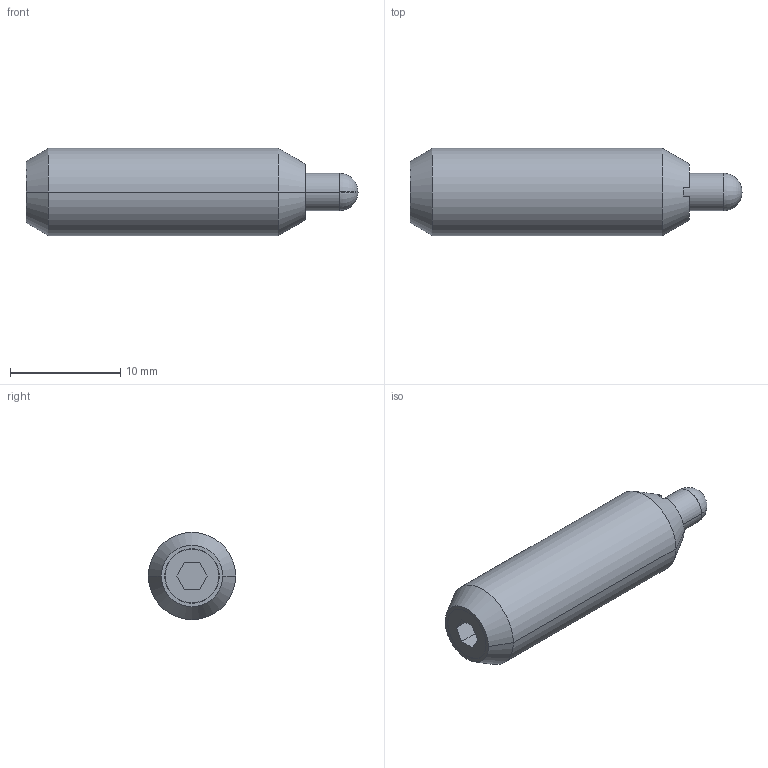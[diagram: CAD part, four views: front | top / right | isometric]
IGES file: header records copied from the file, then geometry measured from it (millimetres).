
Start section:  PTC IGES file: s56-3d.igs
Global section: file name: s56-3d.igs; native system: Pro/ENGINEER by Parametric Technology Corporation; preprocessor: 2002350; author: chant; organization: Unknown; date: 061031.140448; units: inch
Bounding box: 30.18 x 7.92 x 7.92 mm (x, y, z)
Surface area: 776 mm2 (no closed solid volume)
Topology: 0 solids, 0 shells, 32 faces, 222 edges, 280 vertices
Faces by surface type: bspline 16, revolution 16
